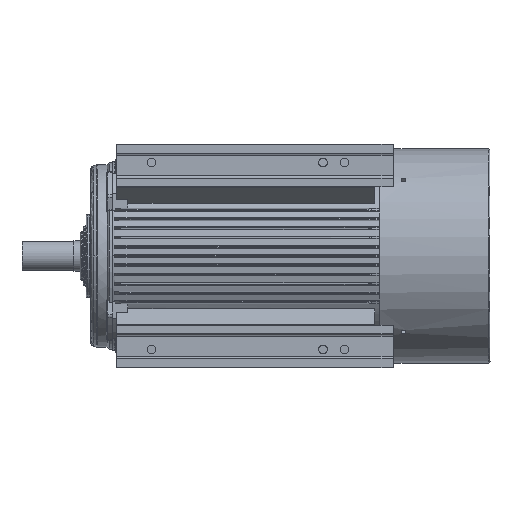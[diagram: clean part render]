
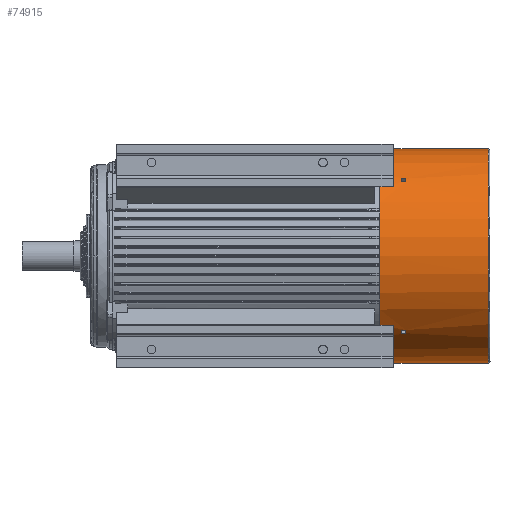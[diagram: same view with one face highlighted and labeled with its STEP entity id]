
A CAD part, front view. The second image highlights one B-rep face of the part: STEP entity #74915.
In plain terms, the highlighted cylindrical face has radius 350 mm (diameter 700 mm), a partial arc.
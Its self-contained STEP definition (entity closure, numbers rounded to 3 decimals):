
#74571=CARTESIAN_POINT('',(0.,0.,5.));
#74572=DIRECTION('',(0.,0.,1.));
#74573=DIRECTION('',(-1.,-0.008,
0.));
#74574=AXIS2_PLACEMENT_3D('',#74571,#74572,#74573);
#74591=DIRECTION('',(0.,0.,1.));
#74592=VECTOR('',#74591,355.);
#74593=CARTESIAN_POINT('',(-350.,0.,5.));
#74594=LINE('',#74593,#74592);
#74595=DIRECTION('',(0.,0.,1.));
#74596=VECTOR('',#74595,15.);
#74597=CARTESIAN_POINT('',(-242.127,-252.734,275.));
#74598=LINE('',#74597,#74596);
#74599=DIRECTION('',(0.,0.,-1.));
#74600=VECTOR('',#74599,15.);
#74601=CARTESIAN_POINT('',(-252.734,-242.127,290.));
#74602=LINE('',#74601,#74600);
#74603=DIRECTION('',(0.,0.,1.));
#74604=VECTOR('',#74603,15.);
#74605=CARTESIAN_POINT('',(252.734,-242.127,275.));
#74606=LINE('',#74605,#74604);
#74607=DIRECTION('',(0.,0.,-1.));
#74608=VECTOR('',#74607,15.);
#74609=CARTESIAN_POINT('',(242.127,-252.734,290.));
#74610=LINE('',#74609,#74608);
#74611=DIRECTION('',(0.,0.,1.));
#74612=VECTOR('',#74611,355.);
#74613=CARTESIAN_POINT('',(350.,0.,5.));
#74614=LINE('',#74613,#74612);
#74636=CARTESIAN_POINT('',(0.,0.,360.));
#74637=DIRECTION('',(0.,0.,-1.));
#74638=DIRECTION('',(1.,0.,0.));
#74639=AXIS2_PLACEMENT_3D('',#74636,#74637,#74638);
#74656=CARTESIAN_POINT('',(0.,0.,
5.));
#74657=DIRECTION('',(0.,0.,1.));
#74658=DIRECTION('',(-1.,0.,0.));
#74659=AXIS2_PLACEMENT_3D('',#74656,#74657,#74658);
#74679=CARTESIAN_POINT('',(0.,0.,275.));
#74680=DIRECTION('',(0.,0.,-1.));
#74681=DIRECTION('',(-0.692,-0.722,0.));
#74682=AXIS2_PLACEMENT_3D('',#74679,#74680,#74681);
#74718=CARTESIAN_POINT('',(0.,0.,275.));
#74719=DIRECTION('',(0.,0.,-1.));
#74720=DIRECTION('',(0.722,-0.692,0.));
#74721=AXIS2_PLACEMENT_3D('',#74718,#74719,#74720);
#74735=CARTESIAN_POINT('',(0.,0.,290.));
#74736=DIRECTION('',(0.,0.,1.));
#74737=DIRECTION('',(-0.722,-0.692,0.));
#74738=AXIS2_PLACEMENT_3D('',#74735,#74736,#74737);
#74748=CARTESIAN_POINT('',(0.,0.,290.));
#74749=DIRECTION('',(0.,0.,1.));
#74750=DIRECTION('',(0.692,-0.722,0.));
#74751=AXIS2_PLACEMENT_3D('',#74748,#74749,#74750);
#74791=CARTESIAN_POINT('',(-349.99,-2.674,
5.));
#74792=CARTESIAN_POINT('',(350.,0.,5.));
#74793=VERTEX_POINT('',#74791);
#74794=VERTEX_POINT('',#74792);
#74803=CARTESIAN_POINT('',(-350.,0.,5.));
#74804=CARTESIAN_POINT('',(-350.,0.,360.));
#74805=VERTEX_POINT('',#74803);
#74806=VERTEX_POINT('',#74804);
#74807=CARTESIAN_POINT('',(350.,0.,360.));
#74808=VERTEX_POINT('',#74807);
#74809=CARTESIAN_POINT('',(-242.127,-252.734,275.));
#74810=CARTESIAN_POINT('',(-242.127,-252.734,290.));
#74811=VERTEX_POINT('',#74809);
#74812=VERTEX_POINT('',#74810);
#74813=CARTESIAN_POINT('',(-252.734,-242.127,290.));
#74814=VERTEX_POINT('',#74813);
#74815=CARTESIAN_POINT('',(-252.734,-242.127,275.));
#74816=VERTEX_POINT('',#74815);
#74817=CARTESIAN_POINT('',(252.734,-242.127,275.));
#74818=CARTESIAN_POINT('',(252.734,-242.127,290.));
#74819=VERTEX_POINT('',#74817);
#74820=VERTEX_POINT('',#74818);
#74821=CARTESIAN_POINT('',(242.127,-252.734,290.));
#74822=VERTEX_POINT('',#74821);
#74823=CARTESIAN_POINT('',(242.127,-252.734,275.));
#74824=VERTEX_POINT('',#74823);
#74879=CARTESIAN_POINT('',(0.,0.,0.));
#74880=DIRECTION('',(0.,0.,1.));
#74881=DIRECTION('',(1.,0.,0.));
#74882=AXIS2_PLACEMENT_3D('',#74879,#74880,#74881);
#74883=CYLINDRICAL_SURFACE('',#74882,350.);
#74885=ORIENTED_EDGE('',*,*,#74884,.T.);
#74887=ORIENTED_EDGE('',*,*,#74886,.F.);
#74889=ORIENTED_EDGE('',*,*,#74888,.F.);
#74890=ORIENTED_EDGE('',*,*,#74864,.F.);
#74892=ORIENTED_EDGE('',*,*,#74891,.F.);
#74893=EDGE_LOOP('',(#74885,#74887,#74889,#74890,#74892));
#74894=FACE_OUTER_BOUND('',#74893,.F.);
#74896=ORIENTED_EDGE('',*,*,#74895,.T.);
#74898=ORIENTED_EDGE('',*,*,#74897,.F.);
#74900=ORIENTED_EDGE('',*,*,#74899,.T.);
#74902=ORIENTED_EDGE('',*,*,#74901,.F.);
#74903=EDGE_LOOP('',(#74896,#74898,#74900,#74902));
#74904=FACE_BOUND('',#74903,.F.);
#74906=ORIENTED_EDGE('',*,*,#74905,.T.);
#74908=ORIENTED_EDGE('',*,*,#74907,.F.);
#74910=ORIENTED_EDGE('',*,*,#74909,.T.);
#74912=ORIENTED_EDGE('',*,*,#74911,.F.);
#74913=EDGE_LOOP('',(#74906,#74908,#74910,#74912));
#74914=FACE_BOUND('',#74913,.F.);
#74915=ADVANCED_FACE('',(#74894,#74904,#74914),#74883,.T.);
#74575=CIRCLE('',#74574,350.);
#74640=CIRCLE('',#74639,350.);
#74660=CIRCLE('',#74659,350.);
#74683=CIRCLE('',#74682,350.);
#74722=CIRCLE('',#74721,350.);
#74739=CIRCLE('',#74738,350.);
#74752=CIRCLE('',#74751,350.);
#74864=EDGE_CURVE('',#74793,#74794,#74575,.T.);
#74884=EDGE_CURVE('',#74805,#74806,#74594,.T.);
#74886=EDGE_CURVE('',#74808,#74806,#74640,.T.);
#74888=EDGE_CURVE('',#74794,#74808,#74614,.T.);
#74891=EDGE_CURVE('',#74805,#74793,#74660,.T.);
#74895=EDGE_CURVE('',#74811,#74812,#74598,.T.);
#74897=EDGE_CURVE('',#74814,#74812,#74739,.T.);
#74899=EDGE_CURVE('',#74814,#74816,#74602,.T.);
#74901=EDGE_CURVE('',#74811,#74816,#74683,.T.);
#74905=EDGE_CURVE('',#74819,#74820,#74606,.T.);
#74907=EDGE_CURVE('',#74822,#74820,#74752,.T.);
#74909=EDGE_CURVE('',#74822,#74824,#74610,.T.);
#74911=EDGE_CURVE('',#74819,#74824,#74722,.T.);
